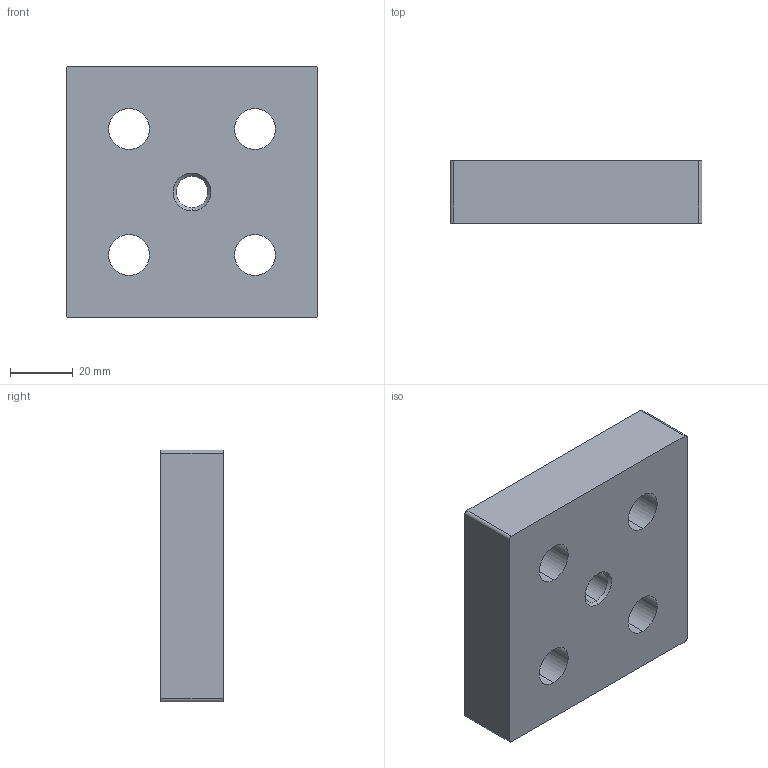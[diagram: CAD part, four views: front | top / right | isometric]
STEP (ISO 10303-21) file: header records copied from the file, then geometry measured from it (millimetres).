
FILE_DESCRIPTION (( 'STEP AP203' ), '1' );
FILE_NAME ('TCFE 80 M12 End plate M12 80x80 (01-06-2021).STEP', '2021-06-01T06:12:28', ( '' ), ( '' ), 'SwSTEP 2.0', 'SolidWorks 2020', '' );
FILE_SCHEMA (( 'CONFIG_CONTROL_DESIGN' ));
Length unit declared in the file: millimetre
Products named in the file (1): TCFE 80 M12 End plate M12 80x80 (01-06-2021)
Bounding box: 80 x 20 x 80 mm (x, y, z)
Volume: 109137.9 mm3; surface area: 22627.8 mm2
Topology: 1 solids, 1 shells, 60 faces, 158 edges, 92 vertices
Faces by surface type: cone 28, cylinder 22, plane 10
Entity records: 1811 total; most frequent: DIRECTION 328, CARTESIAN_POINT 287, ORIENTED_EDGE 268, EDGE_CURVE 134, AXIS2_PLACEMENT_3D 133, VERTEX_POINT 92, EDGE_LOOP 86, CIRCLE 72
